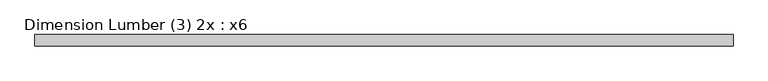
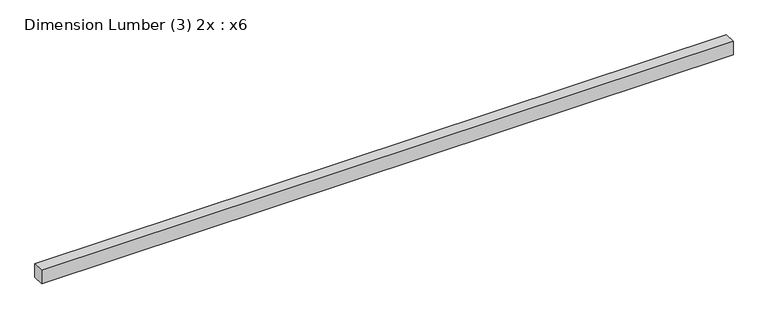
"""IFC4 building model written with IfcOpenShell, lengths in millimetres: beam geometry, Dimension Lumber (3) 2x : x6."""

from ifc_helpers import new_model, si_unit, frame, origin, place, context, project, spatial, polyline, outline, extrude, source, transform, mapped, element, save


def dimension_lumber_3_2x_x6_6d176412(model_context):
    return source(origin(), model_context, "Body", "SweptSolid", [
        extrude(outline(polyline([(3456.559, 57.15), (3456.559, -57.15), (-3452.241, -57.15), (-3452.241, 57.15), (3456.559, 57.15)])), frame((0.0, 0.0, -69.85), z_axis=(0.0, 0.0, 1.0), x_axis=(1.0, 0.0, 0.0)), (0.0, 0.0, 1.0), 139.7),
    ])


if __name__ == "__main__":
    model = new_model("IFC4")
    model_context = context("Model", 3, world=origin())
    ifc_project = project(units=[si_unit("LENGTHUNIT", "METRE", prefix="MILLI")], contexts=[model_context])
    site = spatial("IfcSite", under=ifc_project)
    building = spatial("IfcBuilding", under=site)
    placement = place(None, origin())
    dimension_lumber_3_2x_x6_shape = dimension_lumber_3_2x_x6_6d176412(model_context)
    element("IfcBeam", 1, ObjectType="Dimension Lumber (3) 2x : x6", at=placement, inside=building, context=model_context, shape_type="MappedRepresentation", body=[
        mapped(dimension_lumber_3_2x_x6_shape, transform((0.0, 0.0, 0.0), x_axis=(1.0, 0.0, 0.0), y_axis=(0.0, 1.0, 0.0), z_axis=(0.0, 0.0, 1.0))),
    ])
    save(model, "model.ifc")
